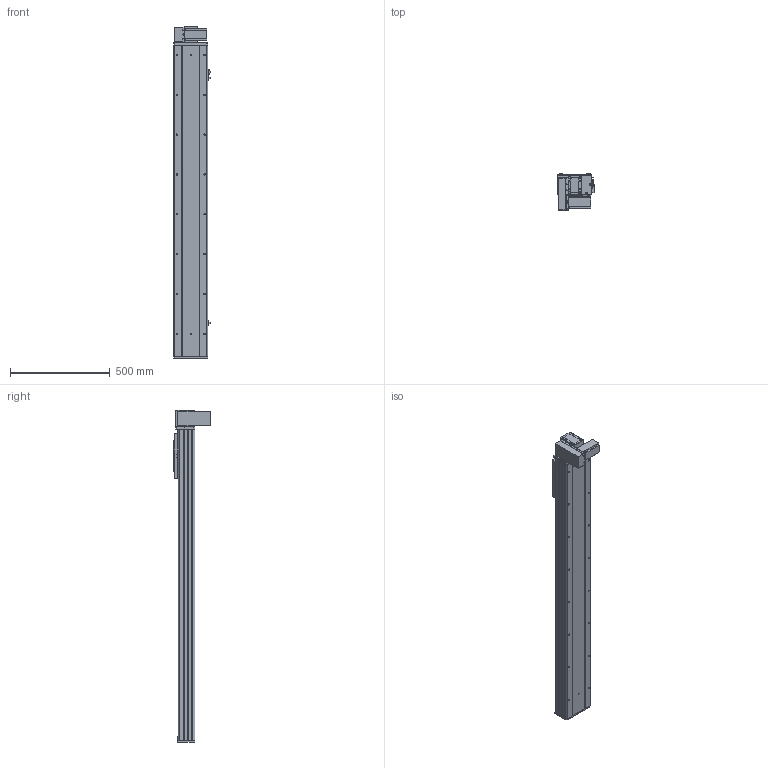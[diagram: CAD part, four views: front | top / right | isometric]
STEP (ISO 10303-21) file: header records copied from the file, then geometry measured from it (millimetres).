
FILE_DESCRIPTION (( 'STEP AP203' ), '1' );
FILE_NAME ('Y170CB-D105-S1250-BM-P400W.STEP', '2020-02-20T06:41:34', ( '微软用户' ), ( '微软中国' ), 'SwSTEP 2.0', 'SolidWorks 2017', '' );
FILE_SCHEMA (( 'CONFIG_CONTROL_DESIGN' ));
Length unit declared in the file: millimetre
Products named in the file (18): Y100-135俋离換覜ん--; 70CB-掛极-; Y170CB-D105-S1250-BM-P400W; Y170CB-陔俋离換覜結え---; --70CB --喘謫眊楊擘啣-; Y1埴倛裔; 70CB-耜裔啣-; 17B-耜蚾蟀諉啣----; 70C--詩湍揤踡え-; 00B-俋欶BM--163; 70CB--耜裔; 70B喘謫眊----; 70C-雄赽釱-奻-; B-源倛裔啣; 0C--雄赽釱俋欶-170; 0B-萇儂楊擘啣; 70CB-詩湍--; san松下电机400不带刹车----
Assembly tree (21 placements, depth 2):
  Y170CB-D105-S1250-BM-P400W
    B-源倛裔啣
    0B-萇儂楊擘啣
    san松下电机400不带刹车----
    70CB-掛极-
    --70CB --喘謫眊楊擘啣-
    70CB-耜裔啣-  x2
    70C--詩湍揤踡え-  x2
    70CB--耜裔
    70C-雄赽釱-奻-
    0C--雄赽釱俋欶-170
    70CB-詩湍--
    Y100-135俋离換覜ん--  x3
    Y170CB-陔俋离換覜結え---
    Y1埴倛裔
    17B-耜蚾蟀諉啣----
    00B-俋欶BM--163
    70B喘謫眊----
Bounding box: 183.5 x 184 x 1666 mm (x, y, z)
Volume: 7524228.9 mm3; surface area: 2702059.9 mm2
Topology: 21 solids, 21 shells, 1015 faces, 2717 edges, 1802 vertices
Faces by surface type: cylinder 529, plane 462, cone 24
Entity records: 32328 total; most frequent: CARTESIAN_POINT 5916, DIRECTION 5258, ORIENTED_EDGE 4916, EDGE_CURVE 2458, AXIS2_PLACEMENT_3D 1928, VERTEX_POINT 1632, VECTOR 1402, LINE 1402
